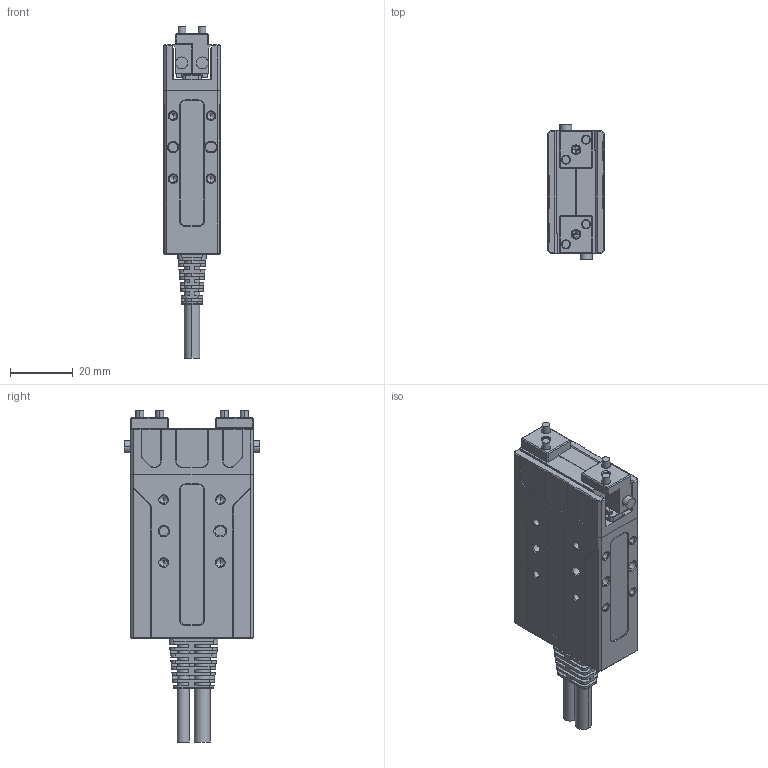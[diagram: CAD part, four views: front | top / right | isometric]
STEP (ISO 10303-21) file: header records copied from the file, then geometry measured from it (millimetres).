
FILE_DESCRIPTION (( 'STEP AP214' ), '1' );
FILE_NAME ('PGE-2-12-O-B.STEP', '2023-07-19T04:13:00', ( '' ), ( '' ), 'SwSTEP 2.0', 'SolidWorks 2020', '' );
FILE_SCHEMA (( 'AUTOMOTIVE_DESIGN' ));
Length unit declared in the file: millimetre
Products named in the file (3): 忒硌價釱; 菁堤褲; PGE-2-12-O-B
Assembly tree (3 placements, depth 2):
  PGE-2-12-O-B
    菁堤褲
    忒硌價釱  x2
Bounding box: 18 x 43 x 105.5 mm (x, y, z)
Volume: 45884 mm3; surface area: 20846.9 mm2
Topology: 13 solids, 14 shells, 1333 faces, 3281 edges, 1981 vertices
Faces by surface type: plane 580, cylinder 377, cone 354, bspline 22
Entity records: 50848 total; most frequent: CARTESIAN_POINT 7538, DIRECTION 6322, ORIENTED_EDGE 6052, EDGE_CURVE 3026, AXIS2_PLACEMENT_3D 2208, VECTOR 1906, LINE 1906, VERTEX_POINT 1866
